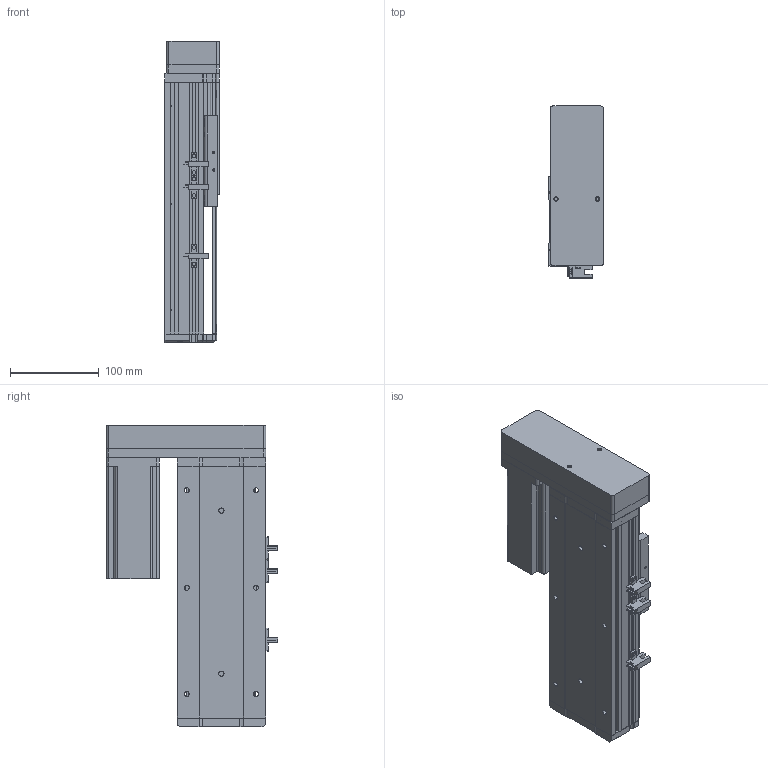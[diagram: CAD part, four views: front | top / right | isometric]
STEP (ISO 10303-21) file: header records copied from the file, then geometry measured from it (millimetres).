
FILE_DESCRIPTION (( 'STEP AP214' ), '1' );
FILE_NAME ('KSD100S-S100-ML-CM.STEP', '2019-08-30T05:49:42', ( '微软用户' ), ( '微软中国' ), 'SwSTEP 2.0', 'SolidWorks 2014', '' );
FILE_SCHEMA (( 'AUTOMOTIVE_DESIGN' ));
Length unit declared in the file: millimetre
Products named in the file (10): 100宽滚珠螺姆安装板半封闭; 100遵傷啣; 100宽底板半封闭丝杆100行程; KSD100S-S100-ML-CM; 悵誘欶酘衵殏; 台达ECMA－C20604AS伺服电机; 100宽马达安装板连板左右折丝杆; U倰嫖萇EEㄜSX672; 100宽防尘板丝杆100行程; 100遵鎮湛假蚾啣
Assembly tree (11 placements, depth 2):
  KSD100S-S100-ML-CM
    100宽底板半封闭丝杆100行程
    100遵傷啣
    100宽滚珠螺姆安装板半封闭
    100遵鎮湛假蚾啣
    100宽防尘板丝杆100行程
    U倰嫖萇EEㄜSX672  x3
    100宽马达安装板连板左右折丝杆
    台达ECMA－C20604AS伺服电机
    悵誘欶酘衵殏
Bounding box: 62 x 193.7 x 340.5 mm (x, y, z)
Volume: 1309218 mm3; surface area: 374019.4 mm2
Topology: 12 solids, 12 shells, 1083 faces, 3024 edges, 1935 vertices
Faces by surface type: cylinder 510, plane 474, cone 99
Entity records: 36021 total; most frequent: CARTESIAN_POINT 6206, DIRECTION 5001, ORIENTED_EDGE 4756, EDGE_CURVE 2378, AXIS2_PLACEMENT_3D 1806, VERTEX_POINT 1559, VECTOR 1389, LINE 1389
